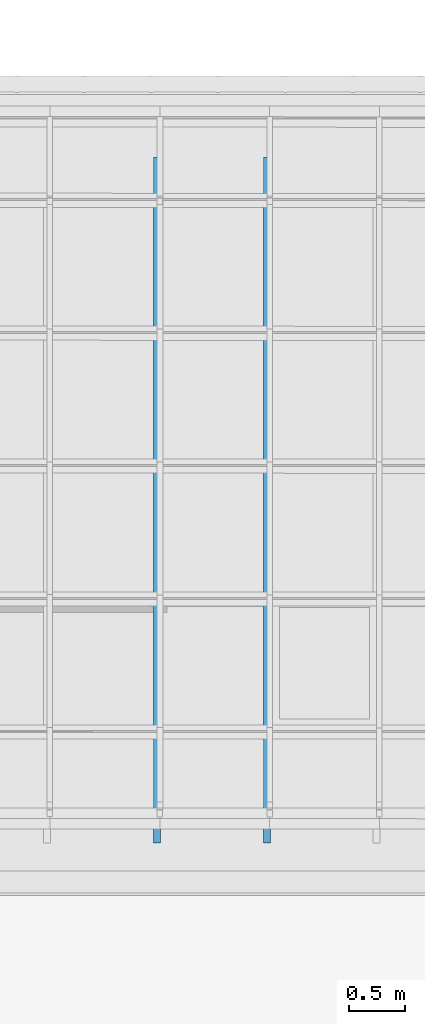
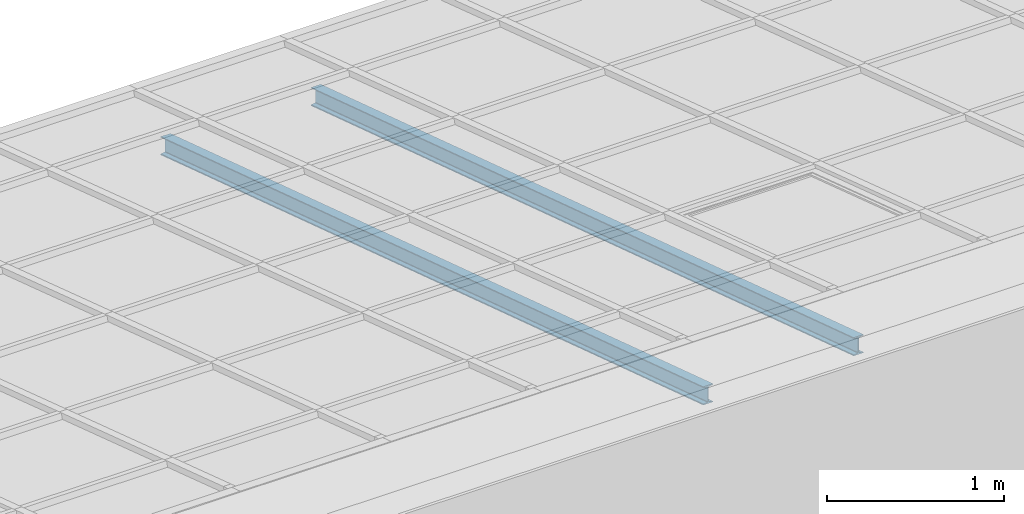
# One storey, part 4 of 47: 2 beams.
"""IFC2X3 building model written with IfcOpenShell, lengths in millimetres."""

import ifcopenshell
import ifcopenshell.guid

model = None  # the IFC model being written
_history = None  # IfcOwnerHistory: only IFC2X3 demands one
_inside = {}  # id of a spatial element -> (the spatial element, [elements in it])
_under = {}  # id of a project, library or spatial element -> (it, [spatial elements below it])
_declared = {}  # id of a project -> (the project, [libraries it declares])
_typed = {}  # id of a type object -> (the type object, [elements of that type])
_made_of = {}  # id of a material, layer set ... -> (it, [elements and type objects made of it])


def new_model(schema):
    """Start an empty IFC model of exactly this schema.

    Asked for "IFC4X3", IfcOpenShell would pick the latest addendum, in which some entities
    have other attributes; the version numbers below select the first issue.
    IFC2X3 requires an IfcOwnerHistory on every rooted entity: one is made here for all.
    """
    global model, _history
    if schema == "IFC4X3":
        model = ifcopenshell.file(schema_version=(4, 3, 0, 0))
    else:
        model = ifcopenshell.file(schema=schema)
    _inside.clear()
    _under.clear()
    _declared.clear()
    _typed.clear()
    _made_of.clear()
    _history = None
    if model.schema == "IFC2X3":
        org = make("IfcOrganization", Name="unknown")
        user = make(
            "IfcPersonAndOrganization",
            ThePerson=make("IfcPerson", FamilyName="unknown"),
            TheOrganization=org,
        )
        app = make(
            "IfcApplication",
            ApplicationDeveloper=org,
            Version="unknown",
            ApplicationFullName="unknown",
            ApplicationIdentifier="unknown",
        )
        _history = make(
            "IfcOwnerHistory",
            OwningUser=user,
            OwningApplication=app,
            ChangeAction="ADDED",
            CreationDate=0,
        )
    return model


def make(cls, **values):
    """One entity of the class cls with the attributes given. An attribute that is None is left unset."""
    return model.create_entity(
        cls, **{name: value for name, value in values.items() if value is not None}
    )


def entity(cls, *values):
    """Any entity or typed value of the class cls, its attributes in the order of the schema. None: left unset."""
    e = model.create_entity(cls)
    for i, value in enumerate(values):
        if value is not None:
            e[i] = value
    return e


def rooted(cls, **values):
    """An entity with a GlobalId (a new one), such as an element, a storey or a relation."""
    return make(cls, GlobalId=ifcopenshell.guid.new(), OwnerHistory=_history, **values)


def si_unit(unit_type, name, prefix=None):
    """IfcSIUnit, for example si_unit("LENGTHUNIT", "METRE", prefix="MILLI")."""
    return make("IfcSIUnit", UnitType=unit_type, Prefix=prefix, Name=name)


def converted_unit(unit_type, name, factor, base, dimensions=None, offset=None):
    """IfcConversionBasedUnit, such as the inch: factor (a typed value) times the base unit."""
    return make(
        "IfcConversionBasedUnit"
        if offset is None
        else "IfcConversionBasedUnitWithOffset",
        ConversionOffset=offset,
        Dimensions=None
        if dimensions is None
        else entity("IfcDimensionalExponents", *dimensions),
        UnitType=unit_type,
        Name=name,
        ConversionFactor=make(
            "IfcMeasureWithUnit", ValueComponent=factor, UnitComponent=base
        ),
    )


def derived_unit(unit_type, elements):
    """IfcDerivedUnit: a product of units, each with its exponent."""
    return make(
        "IfcDerivedUnit",
        Elements=[
            make("IfcDerivedUnitElement", Unit=unit, Exponent=power)
            for unit, power in elements
        ],
        UnitType=unit_type,
    )


def money_unit(currency):
    """IfcMonetaryUnit."""
    return make("IfcMonetaryUnit", Currency=currency)


def assignment(units):
    """IfcUnitAssignment: the units of a project."""
    return None if units is None else make("IfcUnitAssignment", Units=units)


def point(xyz):
    """IfcCartesianPoint."""
    return None if xyz is None else make("IfcCartesianPoint", Coordinates=xyz)


def direction(xyz):
    """IfcDirection."""
    return None if xyz is None else make("IfcDirection", DirectionRatios=xyz)


def frame(location, z_axis=None, x_axis=None):
    """IfcAxis2Placement3D, a coordinate frame: its origin and axes. An axis left out is left unset."""
    return make(
        "IfcAxis2Placement3D",
        Location=point(location),
        Axis=direction(z_axis),
        RefDirection=direction(x_axis),
    )


def frame_2d(location, x_axis=None):
    """IfcAxis2Placement2D, a coordinate frame in the plane: its origin and x axis."""
    return make(
        "IfcAxis2Placement2D", Location=point(location), RefDirection=direction(x_axis)
    )


def origin_with_axes():
    """The frame at (0, 0, 0) with the z axis (0, 0, 1) and the x axis (1, 0, 0) written out."""
    return frame((0.0, 0.0, 0.0), z_axis=(0.0, 0.0, 1.0), x_axis=(1.0, 0.0, 0.0))


def place(relative_to, where):
    """IfcLocalPlacement: puts the frame where relative to a parent placement (None: the world)."""
    return make(
        "IfcLocalPlacement", PlacementRelTo=relative_to, RelativePlacement=where
    )


def context(
    kind, dimensions, precision=None, world=None, true_north=None, identifier=None
):
    """IfcGeometricRepresentationContext, for example the 3D "Model" context."""
    return make(
        "IfcGeometricRepresentationContext",
        ContextIdentifier=identifier,
        ContextType=kind,
        CoordinateSpaceDimension=dimensions,
        Precision=precision,
        WorldCoordinateSystem=world,
        TrueNorth=true_north,
    )


def subcontext(parent, identifier, kind, view, scale=None):
    """IfcGeometricRepresentationSubContext, for example "Body" below "Model"."""
    return make(
        "IfcGeometricRepresentationSubContext",
        ContextIdentifier=identifier,
        ContextType=kind,
        ParentContext=parent,
        TargetScale=scale,
        TargetView=view,
    )


def project(units=None, contexts=None):
    """IfcProject with its units and contexts."""
    return rooted(
        "IfcProject",
        Name="project",
        RepresentationContexts=contexts,
        UnitsInContext=assignment(units),
    )


def spatial(cls, under=None, at=None, **own):
    """A site, building, storey or space (cls), placed at a placement, below another one or the project."""
    s = rooted(cls, ObjectPlacement=at, **own)
    if under is not None:
        _under.setdefault(under.id(), (under, []))[1].append(s)
    return s


def polyline(points):
    """IfcPolyline through the points."""
    return make("IfcPolyline", Points=[point(p) for p in points])


def circle_curve(where, radius):
    """IfcCircle in the frame where."""
    return make("IfcCircle", Position=where, Radius=radius)


def parameter(value):
    """IfcParameterValue: where a trimmed curve begins or ends, as a parameter of its basis curve."""
    return model.create_entity("IfcParameterValue", value)


def trimmed(basis, trim1, trim2, sense, master):
    """IfcTrimmedCurve: the piece of a basis curve between two trims."""
    return make(
        "IfcTrimmedCurve",
        BasisCurve=basis,
        Trim1=trim1,
        Trim2=trim2,
        SenseAgreement=sense,
        MasterRepresentation=master,
    )


def segment(curve, same_sense, transition):
    """IfcCompositeCurveSegment."""
    return make(
        "IfcCompositeCurveSegment",
        Transition=transition,
        SameSense=same_sense,
        ParentCurve=curve,
    )


def composite_curve(segments, self_intersect=None):
    """IfcCompositeCurve: segments joined end to end."""
    return make("IfcCompositeCurve", Segments=segments, SelfIntersect=self_intersect)


def outline(outer, holes=None, kind="AREA"):
    """IfcArbitraryClosedProfileDef: a profile drawn as a closed curve; with holes, ...WithVoids."""
    if holes is None:
        return make("IfcArbitraryClosedProfileDef", ProfileType=kind, OuterCurve=outer)
    return make(
        "IfcArbitraryProfileDefWithVoids",
        ProfileType=kind,
        OuterCurve=outer,
        InnerCurves=holes,
    )


def extrude(swept, where, along, depth):
    """IfcExtrudedAreaSolid: the profile swept, set in the frame where, extruded along a direction by depth."""
    return make(
        "IfcExtrudedAreaSolid",
        SweptArea=swept,
        Position=where,
        ExtrudedDirection=direction(along),
        Depth=depth,
    )


def clip(a, b, op="DIFFERENCE"):
    """IfcBooleanClippingResult: the solid a cut by the half space b."""
    return make(
        "IfcBooleanClippingResult", Operator=op, FirstOperand=a, SecondOperand=b
    )


def halfspace(plane, agree):
    """IfcHalfSpaceSolid: all space on one side of the plane z = 0 of the frame plane."""
    return make(
        "IfcHalfSpaceSolid",
        BaseSurface=make("IfcPlane", Position=plane),
        AgreementFlag=agree,
    )


def shape(context_of_items, identifier, shape_type, items):
    """IfcShapeRepresentation: the items that make up one representation, for example the "Body"."""
    return make(
        "IfcShapeRepresentation",
        ContextOfItems=context_of_items,
        RepresentationIdentifier=identifier,
        RepresentationType=shape_type,
        Items=items,
    )


def material(Name=None, Category=None):
    """IfcMaterial."""
    return make("IfcMaterial", Name=Name, Category=Category)


def made_of(thing, what):
    """Note that an element or type object is made of a material, layer set ...; save() writes the relation."""
    if what is not None:
        _made_of.setdefault(what.id(), (what, []))[1].append(thing)
    return thing


def type_object(cls, material=None, **own):
    """A type object (cls), such as IfcWallType, which elements share."""
    return made_of(rooted(cls, **own), material)


def element(
    cls,
    number,
    at=None,
    inside=None,
    cuts=None,
    type_object=None,
    material=None,
    context=None,
    identifier="Body",
    shape_type=None,
    held_by="IfcProductDefinitionShape",
    body=None,
    shapes=None,
    **own,
):
    """One element of the class cls, such as IfcWall. Its Tag is "e" and its number.

    at: its placement. inside: the storey or other place that contains it. cuts: it is an
    opening in that element (IfcRelVoidsElement). A single representation is given by context,
    identifier, shape_type and body (its items); several are given by shapes. held_by: the class
    of the entity that holds the representations. save() writes the other relations.
    """
    e = rooted(cls, Tag="e%d" % number, ObjectPlacement=at, **own)
    if body is not None:
        shapes = [shape(context, identifier, shape_type, body)]
    if shapes is not None:
        e.Representation = make(held_by, Representations=shapes)
    if inside is not None:
        _inside.setdefault(inside.id(), (inside, []))[1].append(e)
    if cuts is not None:
        rooted(
            "IfcRelVoidsElement", RelatingBuildingElement=cuts, RelatedOpeningElement=e
        )
    if type_object is not None:
        _typed.setdefault(type_object.id(), (type_object, []))[1].append(e)
    return made_of(e, material)


def aggregate(whole, parts):
    """IfcRelAggregates: a whole, such as a stair, and the parts it consists of."""
    return rooted("IfcRelAggregates", RelatingObject=whole, RelatedObjects=parts)


def save(model, path):
    """Write the relations noted so far, then the file.

    IfcRelAggregates (storeys below a building ...), IfcRelContainedInSpatialStructure (elements
    in a storey), IfcRelDefinesByType, IfcRelAssociatesMaterial and IfcRelDeclares: one each for
    every whole, place, type object, material and project.
    """
    for whole, parts in _under.values():
        aggregate(whole, parts)
    for where, things in _inside.values():
        rooted(
            "IfcRelContainedInSpatialStructure",
            RelatedElements=things,
            RelatingStructure=where,
        )
    for kind, things in _typed.values():
        rooted("IfcRelDefinesByType", RelatedObjects=things, RelatingType=kind)
    for what, things in _made_of.values():
        rooted("IfcRelAssociatesMaterial", RelatedObjects=things, RelatingMaterial=what)
    for by, libraries in _declared.values():
        rooted("IfcRelDeclares", RelatingContext=by, RelatedDefinitions=libraries)
    model.write(path)


model = new_model("IFC2X3")

# Units and contexts
model_context = context("Model", 3, precision=1e-05, world=origin_with_axes(), true_north=direction((0.0, 1.0)))
body_context = subcontext(model_context, "Body", "Model", "MODEL_VIEW")
ifc_project = project(units=[si_unit("LENGTHUNIT", "METRE", prefix="MILLI"), si_unit("AREAUNIT", "SQUARE_METRE"), si_unit("VOLUMEUNIT", "CUBIC_METRE"), converted_unit("PLANEANGLEUNIT", "DEGREE", entity("IfcPlaneAngleMeasure", 0.0174532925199), si_unit("PLANEANGLEUNIT", "RADIAN"), dimensions=[0, 0, 0, 0, 0, 0, 0]), si_unit("SOLIDANGLEUNIT", "STERADIAN"), money_unit("EUR"), converted_unit("TIMEUNIT", "Year", entity("IfcTimeMeasure", 31556926.0), si_unit("TIMEUNIT", "SECOND"), dimensions=[0, 0, 1, 0, 0, 0, 0]), si_unit("MASSUNIT", "GRAM", prefix="KILO"), si_unit("THERMODYNAMICTEMPERATUREUNIT", "DEGREE_CELSIUS"), si_unit("LUMINOUSINTENSITYUNIT", "LUMEN"), si_unit("ENERGYUNIT", "JOULE", prefix="MEGA"), derived_unit("THERMALCONDUCTANCEUNIT", [(si_unit("POWERUNIT", "WATT"), 1), (si_unit("LENGTHUNIT", "METRE"), -1), (si_unit("THERMODYNAMICTEMPERATUREUNIT", "KELVIN"), -1)]), derived_unit("SPECIFICHEATCAPACITYUNIT", [(si_unit("ENERGYUNIT", "JOULE"), 1), (si_unit("MASSUNIT", "GRAM", prefix="KILO"), -1), (si_unit("THERMODYNAMICTEMPERATUREUNIT", "KELVIN"), -1)]), derived_unit("MASSDENSITYUNIT", [(si_unit("MASSUNIT", "GRAM", prefix="KILO"), 1), (si_unit("VOLUMEUNIT", "CUBIC_METRE"), -1)])], contexts=[model_context])

# Site, building, storey
site_placement = place(None, origin_with_axes())
site = spatial("IfcSite", under=ifc_project, at=site_placement, Name="Site", CompositionType="ELEMENT")
building_placement = place(site_placement, origin_with_axes())
building = spatial("IfcBuilding", under=site, at=building_placement, Name="Building", CompositionType="ELEMENT")
storey_placement = place(building_placement, frame((0.0, 0.0, 6000.0), z_axis=(0.0, 0.0, 1.0), x_axis=(1.0, 0.0, 0.0)))
storey = spatial("IfcBuildingStorey", under=building, at=storey_placement, Name="KATUSEPLAAN", CompositionType="ELEMENT", Elevation=6000.0)

# Beams
ifc_material = material(Name="Teras (1)")
beam_type = type_object("IfcBeamType", Name="IPE 120", PredefinedType="NOTDEFINED")
beam_1_placement = place(storey_placement, frame((70143.0817676, 46947.8063411, 711.763952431), z_axis=(0.0, 0.0, 1.0), x_axis=(-1.0, 0.0, 0.0)))
element("IfcBeam", 1, at=beam_1_placement, inside=storey, type_object=beam_type, material=ifc_material, Name="I Joist - Steel", ObjectType="I Joist - Steel 64 x 120", context=body_context, shape_type="Clipping", body=[
    clip(clip(extrude(outline(composite_curve([segment(polyline([(32.0018479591, -120.000212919), (32.0018479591, -117.505222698)]), True, "CONTINUOUS"), segment(trimmed(circle_curve(frame_2d((27.3321376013, -117.498683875), x_axis=(0.999999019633, -0.00140026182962)), 4.66971493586), [point((32.0018479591, -117.505222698)), parameter(0.0)], [point((31.7461003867, -115.974488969)), parameter(19.1306436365)], True, "CARTESIAN"), True, "CONTINUOUS"), segment(trimmed(circle_curve(frame_2d((27.8471066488, -117.309508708), x_axis=(0.94607823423, 0.323938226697)), 4.12121703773), [point((31.7461003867, -115.974488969)), parameter(0.0)], [point((31.017792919, -114.676795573)), parameter(20.802576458)], True, "CARTESIAN"), True, "CONTINUOUS"), segment(trimmed(circle_curve(frame_2d((28.4090653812, -116.837495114), x_axis=(0.770140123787, 0.637874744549)), 3.38734141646), [point((31.017792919, -114.676795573)), parameter(0.0)], [point((29.9278037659, -113.809704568)), parameter(23.7281511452)], True, "CARTESIAN"), True, "CONTINUOUS"), segment(trimmed(circle_curve(frame_2d((28.6333599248, -116.404648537), x_axis=(0.446378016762, 0.89484449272)), 2.89988259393), [point((29.9278037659, -113.809704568)), parameter(0.0)], [point((29.1110817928, -113.544386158)), parameter(17.0295027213)], True, "CARTESIAN"), True, "CONTINUOUS"), segment(polyline([(29.1110817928, -113.544386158), (5.24260801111, -109.566039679)]), True, "CONTINUOUS"), segment(trimmed(circle_curve(frame_2d((5.72032987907, -106.7057773), x_axis=(-0.446378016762, -0.89484449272)), 2.89988259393), [point((5.24260801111, -109.566039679)), parameter(17.0295027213)], [point((4.42588603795, -109.300721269)), parameter(0.0)], False, "CARTESIAN"), True, "CONTINUOUS"), segment(trimmed(circle_curve(frame_2d((5.94462442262, -106.272930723), x_axis=(-0.770140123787, -0.637874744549)), 3.38734141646), [point((4.42588603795, -109.300721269)), parameter(23.7281511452)], [point((3.33589688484, -108.433630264)), parameter(0.0)], False, "CARTESIAN"), True, "CONTINUOUS"), segment(trimmed(circle_curve(frame_2d((6.5065831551, -105.800917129), x_axis=(-0.94607823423, -0.323938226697)), 4.12121703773), [point((3.33589688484, -108.433630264)), parameter(20.802576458)], [point((2.60758941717, -107.135936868)), parameter(0.0)], False, "CARTESIAN"), True, "CONTINUOUS"), segment(trimmed(circle_curve(frame_2d((7.02155220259, -105.611741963), x_axis=(-0.999999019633, 0.00140026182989)), 4.66971493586), [point((2.60758941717, -107.135936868)), parameter(19.1306436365)], [point((2.35184184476, -105.605203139)), parameter(0.0)], False, "CARTESIAN"), True, "CONTINUOUS"), segment(polyline([(2.35184184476, -105.605203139), (2.35184184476, -14.3950097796)]), True, "CONTINUOUS"), segment(trimmed(circle_curve(frame_2d((7.02155220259, -14.3884709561), x_axis=(-0.945231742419, 0.326399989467)), 4.66971493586), [point((2.35184184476, -14.3950097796)), parameter(19.1306436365)], [point((2.60758941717, -12.8642760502)), parameter(0.0)], False, "CARTESIAN"), True, "CONTINUOUS"), segment(trimmed(circle_curve(frame_2d((6.5065831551, -14.1992957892), x_axis=(-0.769356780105, 0.638819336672)), 4.12121703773), [point((2.60758941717, -12.8642760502)), parameter(20.802576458)], [point((3.33589688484, -11.5665826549)), parameter(0.0)], False, "CARTESIAN"), True, "CONTINUOUS"), segment(trimmed(circle_curve(frame_2d((5.94462442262, -13.7272821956), x_axis=(-0.44835704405, 0.893854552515)), 3.38734141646), [point((3.33589688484, -11.5665826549)), parameter(23.7281511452)], [point((4.42588603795, -10.6994916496)), parameter(0.0)], False, "CARTESIAN"), True, "CONTINUOUS"), segment(trimmed(circle_curve(frame_2d((5.72032987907, -13.2944356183), x_axis=(-0.164738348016, 0.986337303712)), 2.89988259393), [point((4.42588603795, -10.6994916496)), parameter(17.0295027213)], [point((5.24260801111, -10.4341732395)), parameter(0.0)], False, "CARTESIAN"), True, "CONTINUOUS"), segment(polyline([(5.24260801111, -10.4341732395), (29.1110817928, -6.45582676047)]), True, "CONTINUOUS"), segment(trimmed(circle_curve(frame_2d((28.6333599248, -3.59556438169), x_axis=(0.164738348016, -0.986337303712)), 2.89988259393), [point((29.1110817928, -6.45582676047)), parameter(0.0)], [point((29.9278037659, -6.19050835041)), parameter(17.0295027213)], True, "CARTESIAN"), True, "CONTINUOUS"), segment(trimmed(circle_curve(frame_2d((28.4090653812, -3.16271780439), x_axis=(0.44835704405, -0.893854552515)), 3.38734141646), [point((29.9278037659, -6.19050835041)), parameter(0.0)], [point((31.017792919, -5.32341734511)), parameter(23.7281511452)], True, "CARTESIAN"), True, "CONTINUOUS"), segment(trimmed(circle_curve(frame_2d((27.8471066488, -2.69070421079), x_axis=(0.769356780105, -0.638819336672)), 4.12121703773), [point((31.017792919, -5.32341734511)), parameter(0.0)], [point((31.7461003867, -4.02572394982)), parameter(20.802576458)], True, "CARTESIAN"), True, "CONTINUOUS"), segment(trimmed(circle_curve(frame_2d((27.3321376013, -2.50152904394), x_axis=(0.945231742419, -0.326399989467)), 4.66971493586), [point((31.7461003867, -4.02572394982)), parameter(0.0)], [point((32.0018479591, -2.49499022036)), parameter(19.1306436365)], True, "CARTESIAN"), True, "CONTINUOUS"), segment(polyline([(32.0018479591, -2.49499022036), (32.0018479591, 0.0), (-32.0018479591, 0.0), (-32.0018479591, -2.49499022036)]), True, "CONTINUOUS"), segment(trimmed(circle_curve(frame_2d((-27.3321376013, -2.50152904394), x_axis=(-0.999999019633, 0.00140026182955)), 4.66971493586), [point((-32.0018479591, -2.49499022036)), parameter(0.0)], [point((-31.7461003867, -4.02572394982)), parameter(19.1306436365)], True, "CARTESIAN"), True, "CONTINUOUS"), segment(trimmed(circle_curve(frame_2d((-27.8471066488, -2.69070421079), x_axis=(-0.94607823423, -0.323938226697)), 4.12121703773), [point((-31.7461003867, -4.02572394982)), parameter(0.0)], [point((-31.017792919, -5.32341734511)), parameter(20.802576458)], True, "CARTESIAN"), True, "CONTINUOUS"), segment(trimmed(circle_curve(frame_2d((-28.4090653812, -3.16271780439), x_axis=(-0.770140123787, -0.637874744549)), 3.38734141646), [point((-31.017792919, -5.32341734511)), parameter(0.0)], [point((-29.9278037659, -6.19050835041)), parameter(23.7281511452)], True, "CARTESIAN"), True, "CONTINUOUS"), segment(trimmed(circle_curve(frame_2d((-28.6333599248, -3.59556438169), x_axis=(-0.446378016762, -0.89484449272)), 2.89988259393), [point((-29.9278037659, -6.19050835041)), parameter(0.0)], [point((-29.1110817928, -6.45582676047)), parameter(17.0295027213)], True, "CARTESIAN"), True, "CONTINUOUS"), segment(polyline([(-29.1110817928, -6.45582676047), (-5.24260801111, -10.4341732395)]), True, "CONTINUOUS"), segment(trimmed(circle_curve(frame_2d((-5.72032987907, -13.2944356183), x_axis=(0.446378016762, 0.89484449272)), 2.89988259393), [point((-5.24260801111, -10.4341732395)), parameter(17.0295027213)], [point((-4.42588603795, -10.6994916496)), parameter(0.0)], False, "CARTESIAN"), True, "CONTINUOUS"), segment(trimmed(circle_curve(frame_2d((-5.94462442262, -13.7272821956), x_axis=(0.770140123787, 0.637874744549)), 3.38734141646), [point((-4.42588603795, -10.6994916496)), parameter(23.7281511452)], [point((-3.33589688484, -11.5665826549)), parameter(0.0)], False, "CARTESIAN"), True, "CONTINUOUS"), segment(trimmed(circle_curve(frame_2d((-6.5065831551, -14.1992957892), x_axis=(0.94607823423, 0.323938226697)), 4.12121703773), [point((-3.33589688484, -11.5665826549)), parameter(20.802576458)], [point((-2.60758941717, -12.8642760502)), parameter(0.0)], False, "CARTESIAN"), True, "CONTINUOUS"), segment(trimmed(circle_curve(frame_2d((-7.02155220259, -14.3884709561), x_axis=(0.999999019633, -0.00140026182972)), 4.66971493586), [point((-2.60758941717, -12.8642760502)), parameter(19.1306436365)], [point((-2.35184184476, -14.3950097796)), parameter(0.0)], False, "CARTESIAN"), True, "CONTINUOUS"), segment(polyline([(-2.35184184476, -14.3950097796), (-2.35184184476, -105.605203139)]), True, "CONTINUOUS"), segment(trimmed(circle_curve(frame_2d((-7.02155220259, -105.611741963), x_axis=(0.945231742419, -0.326399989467)), 4.66971493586), [point((-2.35184184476, -105.605203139)), parameter(19.1306436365)], [point((-2.60758941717, -107.135936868)), parameter(0.0)], False, "CARTESIAN"), True, "CONTINUOUS"), segment(trimmed(circle_curve(frame_2d((-6.5065831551, -105.800917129), x_axis=(0.769356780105, -0.638819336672)), 4.12121703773), [point((-2.60758941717, -107.135936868)), parameter(20.802576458)], [point((-3.33589688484, -108.433630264)), parameter(0.0)], False, "CARTESIAN"), True, "CONTINUOUS"), segment(trimmed(circle_curve(frame_2d((-5.94462442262, -106.272930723), x_axis=(0.44835704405, -0.893854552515)), 3.38734141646), [point((-3.33589688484, -108.433630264)), parameter(23.7281511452)], [point((-4.42588603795, -109.300721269)), parameter(0.0)], False, "CARTESIAN"), True, "CONTINUOUS"), segment(trimmed(circle_curve(frame_2d((-5.72032987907, -106.7057773), x_axis=(0.164738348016, -0.986337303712)), 2.89988259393), [point((-4.42588603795, -109.300721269)), parameter(17.0295027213)], [point((-5.24260801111, -109.566039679)), parameter(0.0)], False, "CARTESIAN"), True, "CONTINUOUS"), segment(polyline([(-5.24260801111, -109.566039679), (-29.1110817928, -113.544386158)]), True, "CONTINUOUS"), segment(trimmed(circle_curve(frame_2d((-28.6333599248, -116.404648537), x_axis=(-0.164738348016, 0.986337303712)), 2.89988259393), [point((-29.1110817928, -113.544386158)), parameter(0.0)], [point((-29.9278037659, -113.809704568)), parameter(17.0295027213)], True, "CARTESIAN"), True, "CONTINUOUS"), segment(trimmed(circle_curve(frame_2d((-28.4090653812, -116.837495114), x_axis=(-0.44835704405, 0.893854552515)), 3.38734141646), [point((-29.9278037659, -113.809704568)), parameter(0.0)], [point((-31.017792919, -114.676795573)), parameter(23.7281511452)], True, "CARTESIAN"), True, "CONTINUOUS"), segment(trimmed(circle_curve(frame_2d((-27.8471066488, -117.309508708), x_axis=(-0.769356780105, 0.638819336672)), 4.12121703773), [point((-31.017792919, -114.676795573)), parameter(0.0)], [point((-31.7461003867, -115.974488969)), parameter(20.802576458)], True, "CARTESIAN"), True, "CONTINUOUS"), segment(trimmed(circle_curve(frame_2d((-27.3321376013, -117.498683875), x_axis=(-0.945231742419, 0.326399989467)), 4.66971493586), [point((-31.7461003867, -115.974488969)), parameter(0.0)], [point((-32.0018479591, -117.505222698)), parameter(19.1306436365)], True, "CARTESIAN"), True, "CONTINUOUS"), segment(polyline([(-32.0018479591, -117.505222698), (-32.0018479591, -120.000212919), (32.0018479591, -120.000212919)]), True, "CONTINUOUS")], self_intersect=False)), frame((0.0, 6177.44201598, 2007.17258333), z_axis=(0.0, 0.951056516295, 0.309016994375), x_axis=(-1.0, 0.0, 0.0)), (0.0, 0.0, -1.0), 6550.487721), halfspace(frame((0.0, 6125.0, 0.0), z_axis=(0.0, -1.0, 0.0), x_axis=(0.0, 0.0, -1.0)), True)), halfspace(frame((0.0, 0.0, 0.0), z_axis=(0.0, 1.0, 0.0), x_axis=(0.0, 0.0, 1.0)), True)),
])
beam_2_placement = place(storey_placement, frame((71123.0504974, 46947.8063411, 707.507540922), z_axis=(0.0, 0.0, 1.0), x_axis=(-1.0, 0.0, 0.0)))
element("IfcBeam", 2, at=beam_2_placement, inside=storey, type_object=beam_type, material=ifc_material, Name="I Joist - Steel", ObjectType="I Joist - Steel 64 x 120", context=body_context, shape_type="Clipping", body=[
    clip(clip(extrude(outline(composite_curve([segment(polyline([(32.0018479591, -120.000212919), (32.0018479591, -117.505222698)]), True, "CONTINUOUS"), segment(trimmed(circle_curve(frame_2d((27.3321376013, -117.498683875), x_axis=(0.999999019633, -0.00140026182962)), 4.66971493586), [point((32.0018479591, -117.505222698)), parameter(0.0)], [point((31.7461003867, -115.974488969)), parameter(19.1306436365)], True, "CARTESIAN"), True, "CONTINUOUS"), segment(trimmed(circle_curve(frame_2d((27.8471066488, -117.309508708), x_axis=(0.94607823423, 0.323938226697)), 4.12121703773), [point((31.7461003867, -115.974488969)), parameter(0.0)], [point((31.017792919, -114.676795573)), parameter(20.802576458)], True, "CARTESIAN"), True, "CONTINUOUS"), segment(trimmed(circle_curve(frame_2d((28.4090653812, -116.837495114), x_axis=(0.770140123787, 0.637874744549)), 3.38734141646), [point((31.017792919, -114.676795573)), parameter(0.0)], [point((29.9278037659, -113.809704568)), parameter(23.7281511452)], True, "CARTESIAN"), True, "CONTINUOUS"), segment(trimmed(circle_curve(frame_2d((28.6333599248, -116.404648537), x_axis=(0.446378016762, 0.89484449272)), 2.89988259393), [point((29.9278037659, -113.809704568)), parameter(0.0)], [point((29.1110817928, -113.544386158)), parameter(17.0295027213)], True, "CARTESIAN"), True, "CONTINUOUS"), segment(polyline([(29.1110817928, -113.544386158), (5.24260801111, -109.566039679)]), True, "CONTINUOUS"), segment(trimmed(circle_curve(frame_2d((5.72032987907, -106.7057773), x_axis=(-0.446378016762, -0.89484449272)), 2.89988259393), [point((5.24260801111, -109.566039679)), parameter(17.0295027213)], [point((4.42588603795, -109.300721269)), parameter(0.0)], False, "CARTESIAN"), True, "CONTINUOUS"), segment(trimmed(circle_curve(frame_2d((5.94462442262, -106.272930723), x_axis=(-0.770140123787, -0.637874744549)), 3.38734141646), [point((4.42588603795, -109.300721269)), parameter(23.7281511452)], [point((3.33589688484, -108.433630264)), parameter(0.0)], False, "CARTESIAN"), True, "CONTINUOUS"), segment(trimmed(circle_curve(frame_2d((6.5065831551, -105.800917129), x_axis=(-0.94607823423, -0.323938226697)), 4.12121703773), [point((3.33589688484, -108.433630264)), parameter(20.802576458)], [point((2.60758941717, -107.135936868)), parameter(0.0)], False, "CARTESIAN"), True, "CONTINUOUS"), segment(trimmed(circle_curve(frame_2d((7.02155220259, -105.611741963), x_axis=(-0.999999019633, 0.00140026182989)), 4.66971493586), [point((2.60758941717, -107.135936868)), parameter(19.1306436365)], [point((2.35184184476, -105.605203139)), parameter(0.0)], False, "CARTESIAN"), True, "CONTINUOUS"), segment(polyline([(2.35184184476, -105.605203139), (2.35184184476, -14.3950097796)]), True, "CONTINUOUS"), segment(trimmed(circle_curve(frame_2d((7.02155220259, -14.3884709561), x_axis=(-0.945231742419, 0.326399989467)), 4.66971493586), [point((2.35184184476, -14.3950097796)), parameter(19.1306436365)], [point((2.60758941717, -12.8642760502)), parameter(0.0)], False, "CARTESIAN"), True, "CONTINUOUS"), segment(trimmed(circle_curve(frame_2d((6.5065831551, -14.1992957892), x_axis=(-0.769356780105, 0.638819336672)), 4.12121703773), [point((2.60758941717, -12.8642760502)), parameter(20.802576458)], [point((3.33589688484, -11.5665826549)), parameter(0.0)], False, "CARTESIAN"), True, "CONTINUOUS"), segment(trimmed(circle_curve(frame_2d((5.94462442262, -13.7272821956), x_axis=(-0.44835704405, 0.893854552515)), 3.38734141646), [point((3.33589688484, -11.5665826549)), parameter(23.7281511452)], [point((4.42588603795, -10.6994916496)), parameter(0.0)], False, "CARTESIAN"), True, "CONTINUOUS"), segment(trimmed(circle_curve(frame_2d((5.72032987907, -13.2944356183), x_axis=(-0.164738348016, 0.986337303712)), 2.89988259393), [point((4.42588603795, -10.6994916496)), parameter(17.0295027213)], [point((5.24260801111, -10.4341732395)), parameter(0.0)], False, "CARTESIAN"), True, "CONTINUOUS"), segment(polyline([(5.24260801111, -10.4341732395), (29.1110817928, -6.45582676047)]), True, "CONTINUOUS"), segment(trimmed(circle_curve(frame_2d((28.6333599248, -3.59556438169), x_axis=(0.164738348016, -0.986337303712)), 2.89988259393), [point((29.1110817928, -6.45582676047)), parameter(0.0)], [point((29.9278037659, -6.19050835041)), parameter(17.0295027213)], True, "CARTESIAN"), True, "CONTINUOUS"), segment(trimmed(circle_curve(frame_2d((28.4090653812, -3.16271780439), x_axis=(0.44835704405, -0.893854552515)), 3.38734141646), [point((29.9278037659, -6.19050835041)), parameter(0.0)], [point((31.017792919, -5.32341734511)), parameter(23.7281511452)], True, "CARTESIAN"), True, "CONTINUOUS"), segment(trimmed(circle_curve(frame_2d((27.8471066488, -2.69070421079), x_axis=(0.769356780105, -0.638819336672)), 4.12121703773), [point((31.017792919, -5.32341734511)), parameter(0.0)], [point((31.7461003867, -4.02572394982)), parameter(20.802576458)], True, "CARTESIAN"), True, "CONTINUOUS"), segment(trimmed(circle_curve(frame_2d((27.3321376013, -2.50152904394), x_axis=(0.945231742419, -0.326399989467)), 4.66971493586), [point((31.7461003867, -4.02572394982)), parameter(0.0)], [point((32.0018479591, -2.49499022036)), parameter(19.1306436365)], True, "CARTESIAN"), True, "CONTINUOUS"), segment(polyline([(32.0018479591, -2.49499022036), (32.0018479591, 0.0), (-32.0018479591, 0.0), (-32.0018479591, -2.49499022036)]), True, "CONTINUOUS"), segment(trimmed(circle_curve(frame_2d((-27.3321376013, -2.50152904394), x_axis=(-0.999999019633, 0.00140026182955)), 4.66971493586), [point((-32.0018479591, -2.49499022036)), parameter(0.0)], [point((-31.7461003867, -4.02572394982)), parameter(19.1306436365)], True, "CARTESIAN"), True, "CONTINUOUS"), segment(trimmed(circle_curve(frame_2d((-27.8471066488, -2.69070421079), x_axis=(-0.94607823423, -0.323938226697)), 4.12121703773), [point((-31.7461003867, -4.02572394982)), parameter(0.0)], [point((-31.017792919, -5.32341734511)), parameter(20.802576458)], True, "CARTESIAN"), True, "CONTINUOUS"), segment(trimmed(circle_curve(frame_2d((-28.4090653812, -3.16271780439), x_axis=(-0.770140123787, -0.637874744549)), 3.38734141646), [point((-31.017792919, -5.32341734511)), parameter(0.0)], [point((-29.9278037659, -6.19050835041)), parameter(23.7281511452)], True, "CARTESIAN"), True, "CONTINUOUS"), segment(trimmed(circle_curve(frame_2d((-28.6333599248, -3.59556438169), x_axis=(-0.446378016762, -0.89484449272)), 2.89988259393), [point((-29.9278037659, -6.19050835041)), parameter(0.0)], [point((-29.1110817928, -6.45582676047)), parameter(17.0295027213)], True, "CARTESIAN"), True, "CONTINUOUS"), segment(polyline([(-29.1110817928, -6.45582676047), (-5.24260801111, -10.4341732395)]), True, "CONTINUOUS"), segment(trimmed(circle_curve(frame_2d((-5.72032987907, -13.2944356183), x_axis=(0.446378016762, 0.89484449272)), 2.89988259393), [point((-5.24260801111, -10.4341732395)), parameter(17.0295027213)], [point((-4.42588603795, -10.6994916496)), parameter(0.0)], False, "CARTESIAN"), True, "CONTINUOUS"), segment(trimmed(circle_curve(frame_2d((-5.94462442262, -13.7272821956), x_axis=(0.770140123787, 0.637874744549)), 3.38734141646), [point((-4.42588603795, -10.6994916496)), parameter(23.7281511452)], [point((-3.33589688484, -11.5665826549)), parameter(0.0)], False, "CARTESIAN"), True, "CONTINUOUS"), segment(trimmed(circle_curve(frame_2d((-6.5065831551, -14.1992957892), x_axis=(0.94607823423, 0.323938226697)), 4.12121703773), [point((-3.33589688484, -11.5665826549)), parameter(20.802576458)], [point((-2.60758941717, -12.8642760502)), parameter(0.0)], False, "CARTESIAN"), True, "CONTINUOUS"), segment(trimmed(circle_curve(frame_2d((-7.02155220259, -14.3884709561), x_axis=(0.999999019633, -0.00140026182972)), 4.66971493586), [point((-2.60758941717, -12.8642760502)), parameter(19.1306436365)], [point((-2.35184184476, -14.3950097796)), parameter(0.0)], False, "CARTESIAN"), True, "CONTINUOUS"), segment(polyline([(-2.35184184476, -14.3950097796), (-2.35184184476, -105.605203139)]), True, "CONTINUOUS"), segment(trimmed(circle_curve(frame_2d((-7.02155220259, -105.611741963), x_axis=(0.945231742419, -0.326399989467)), 4.66971493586), [point((-2.35184184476, -105.605203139)), parameter(19.1306436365)], [point((-2.60758941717, -107.135936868)), parameter(0.0)], False, "CARTESIAN"), True, "CONTINUOUS"), segment(trimmed(circle_curve(frame_2d((-6.5065831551, -105.800917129), x_axis=(0.769356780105, -0.638819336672)), 4.12121703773), [point((-2.60758941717, -107.135936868)), parameter(20.802576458)], [point((-3.33589688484, -108.433630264)), parameter(0.0)], False, "CARTESIAN"), True, "CONTINUOUS"), segment(trimmed(circle_curve(frame_2d((-5.94462442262, -106.272930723), x_axis=(0.44835704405, -0.893854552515)), 3.38734141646), [point((-3.33589688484, -108.433630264)), parameter(23.7281511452)], [point((-4.42588603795, -109.300721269)), parameter(0.0)], False, "CARTESIAN"), True, "CONTINUOUS"), segment(trimmed(circle_curve(frame_2d((-5.72032987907, -106.7057773), x_axis=(0.164738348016, -0.986337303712)), 2.89988259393), [point((-4.42588603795, -109.300721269)), parameter(17.0295027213)], [point((-5.24260801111, -109.566039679)), parameter(0.0)], False, "CARTESIAN"), True, "CONTINUOUS"), segment(polyline([(-5.24260801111, -109.566039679), (-29.1110817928, -113.544386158)]), True, "CONTINUOUS"), segment(trimmed(circle_curve(frame_2d((-28.6333599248, -116.404648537), x_axis=(-0.164738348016, 0.986337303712)), 2.89988259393), [point((-29.1110817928, -113.544386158)), parameter(0.0)], [point((-29.9278037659, -113.809704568)), parameter(17.0295027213)], True, "CARTESIAN"), True, "CONTINUOUS"), segment(trimmed(circle_curve(frame_2d((-28.4090653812, -116.837495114), x_axis=(-0.44835704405, 0.893854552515)), 3.38734141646), [point((-29.9278037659, -113.809704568)), parameter(0.0)], [point((-31.017792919, -114.676795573)), parameter(23.7281511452)], True, "CARTESIAN"), True, "CONTINUOUS"), segment(trimmed(circle_curve(frame_2d((-27.8471066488, -117.309508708), x_axis=(-0.769356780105, 0.638819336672)), 4.12121703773), [point((-31.017792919, -114.676795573)), parameter(0.0)], [point((-31.7461003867, -115.974488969)), parameter(20.802576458)], True, "CARTESIAN"), True, "CONTINUOUS"), segment(trimmed(circle_curve(frame_2d((-27.3321376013, -117.498683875), x_axis=(-0.945231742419, 0.326399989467)), 4.66971493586), [point((-31.7461003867, -115.974488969)), parameter(0.0)], [point((-32.0018479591, -117.505222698)), parameter(19.1306436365)], True, "CARTESIAN"), True, "CONTINUOUS"), segment(polyline([(-32.0018479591, -117.505222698), (-32.0018479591, -120.000212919), (32.0018479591, -120.000212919)]), True, "CONTINUOUS")], self_intersect=False)), frame((0.0, 6177.44201598, 2007.17258333), z_axis=(0.0, 0.951056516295, 0.309016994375), x_axis=(-1.0, 0.0, 0.0)), (0.0, 0.0, -1.0), 6550.487721), halfspace(frame((0.0, 6125.0, 0.0), z_axis=(0.0, -1.0, 0.0), x_axis=(0.0, 0.0, -1.0)), True)), halfspace(frame((0.0, 0.0, 0.0), z_axis=(0.0, 1.0, 0.0), x_axis=(0.0, 0.0, 1.0)), True)),
])

save(model, "model.ifc")
